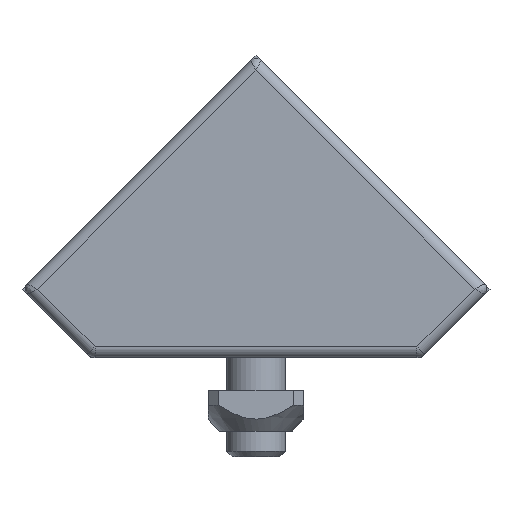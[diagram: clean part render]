
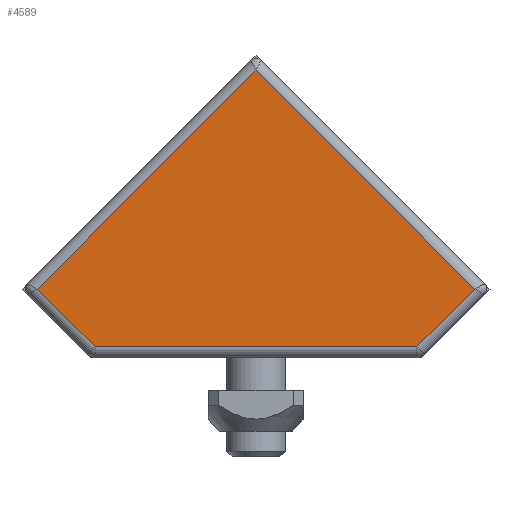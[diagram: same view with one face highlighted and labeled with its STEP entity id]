
A CAD part, front view. The second image highlights one B-rep face of the part: STEP entity #4589.
In plain terms, the highlighted planar face has unit normal (0, -1, 0) as drawn and (0, 0, -1) by its records, which use the part's own axes.
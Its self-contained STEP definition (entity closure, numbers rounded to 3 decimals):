
#4410=CARTESIAN_POINT('',(-9.941,21.0,0.0));
#4411=VERTEX_POINT('',#4410);
#4427=CARTESIAN_POINT('',(21.,-9.941,0.0));
#4428=VERTEX_POINT('',#4427);
#4436=CARTESIAN_POINT('',(21.,-9.941,0.0));
#4437=DIRECTION('',(-0.707,0.707,0.0));
#4438=VECTOR('',#4437,43.758);
#4439=LINE('',#4436,#4438);
#4440=EDGE_CURVE('',#4428,#4411,#4439,.T.);
#4539=CARTESIAN_POINT('',(-21.,21.,0.));
#4540=VERTEX_POINT('',#4539);
#4541=CARTESIAN_POINT('',(-9.941,21.0,0.0));
#4542=DIRECTION('',(-1.0,0.0,0.0));
#4543=VECTOR('',#4542,11.059);
#4544=LINE('',#4541,#4543);
#4545=EDGE_CURVE('',#4411,#4540,#4544,.T.);
#4558=CARTESIAN_POINT('',(-3.899,-3.899,0.0));
#4559=DIRECTION('',(0.0,0.0,1.0));
#4560=DIRECTION('',(1.0,0.0,0.0));
#4561=AXIS2_PLACEMENT_3D('',#4558,#4559,#4560);
#4562=PLANE('',#4561);
#4563=ORIENTED_EDGE('',*,*,#4440,.F.);
#4564=CARTESIAN_POINT('',(21.,-21.0,0.0));
#4565=VERTEX_POINT('',#4564);
#4566=CARTESIAN_POINT('',(21.,-21.0,0.0));
#4567=DIRECTION('',(0.0,1.0,0.0));
#4568=VECTOR('',#4567,11.059);
#4569=LINE('',#4566,#4568);
#4570=EDGE_CURVE('',#4565,#4428,#4569,.T.);
#4571=ORIENTED_EDGE('',*,*,#4570,.F.);
#4572=CARTESIAN_POINT('',(-21.,-21.,0.0));
#4573=VERTEX_POINT('',#4572);
#4574=CARTESIAN_POINT('',(-21.,-21.,0.0));
#4575=DIRECTION('',(1.0,0.0,0.0));
#4576=VECTOR('',#4575,42.0);
#4577=LINE('',#4574,#4576);
#4578=EDGE_CURVE('',#4573,#4565,#4577,.T.);
#4579=ORIENTED_EDGE('',*,*,#4578,.F.);
#4580=CARTESIAN_POINT('',(-21.,21.,0.0));
#4581=DIRECTION('',(0.0,-1.0,0.0));
#4582=VECTOR('',#4581,42.);
#4583=LINE('',#4580,#4582);
#4584=EDGE_CURVE('',#4540,#4573,#4583,.T.);
#4585=ORIENTED_EDGE('',*,*,#4584,.F.);
#4586=ORIENTED_EDGE('',*,*,#4545,.F.);
#4587=EDGE_LOOP('',(#4563,#4571,#4579,#4585,#4586));
#4588=FACE_OUTER_BOUND('',#4587,.T.);
#4589=ADVANCED_FACE('',(#4588),#4562,.F.);
